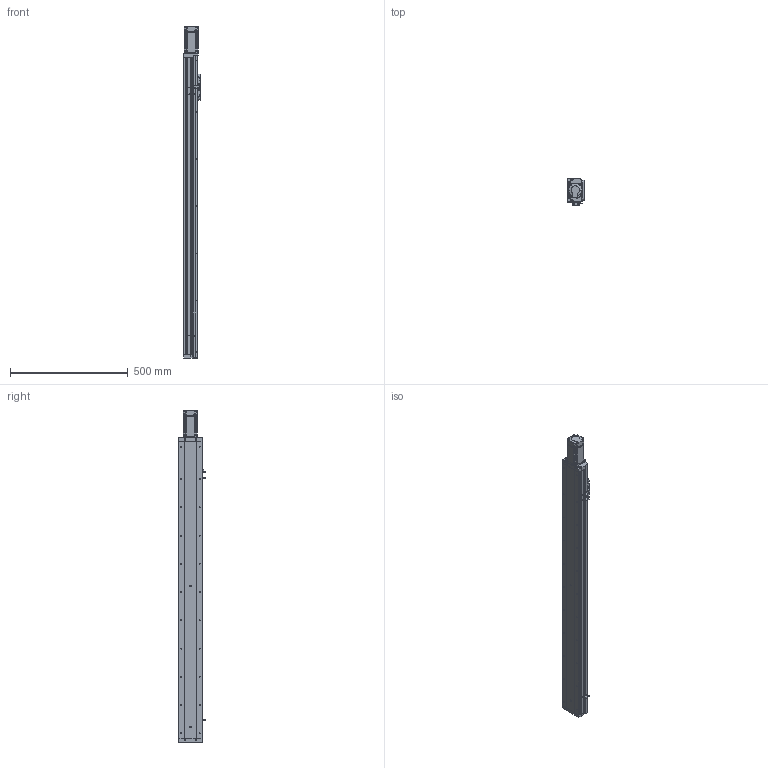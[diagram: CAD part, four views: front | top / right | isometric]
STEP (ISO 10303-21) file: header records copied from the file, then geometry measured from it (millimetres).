
FILE_DESCRIPTION (( 'STEP AP214' ), '1' );
FILE_NAME ('KSD100S-S1050-MN-CR.STEP', '2019-09-02T09:46:46', ( '微软用户' ), ( '微软中国' ), 'SwSTEP 2.0', 'SolidWorks 2014', '' );
FILE_SCHEMA (( 'AUTOMOTIVE_DESIGN' ));
Length unit declared in the file: millimetre
Products named in the file (12): MHMD042G1CA_2_03; U倰嫖萇EEㄜSX672; 感应片100宽全封闭; 100宽马达安装板全封闭不带电机座; 100宽端板全封闭; 100宽滚珠螺姆安装板1防护罩; 100宽滚珠螺姆安装板1; 100宽盖板压板不带电机座; 100宽盖板1050行程不带电机座; 100宽侧板1050行程不带电机座; 100宽底板全封闭1050行程不带电机座; KSD100S-S1050-MN-CR
Assembly tree (15 placements, depth 2):
  KSD100S-S1050-MN-CR
    100宽底板全封闭1050行程不带电机座
    100宽侧板1050行程不带电机座  x2
    100宽盖板1050行程不带电机座
    100宽盖板压板不带电机座  x2
    100宽滚珠螺姆安装板1
    100宽滚珠螺姆安装板1防护罩
    100宽端板全封闭
    100宽马达安装板全封闭不带电机座
    感应片100宽全封闭
    U倰嫖萇EEㄜSX672  x3
    MHMD042G1CA_2_03
Bounding box: 70 x 113.7 x 1410.5 mm (x, y, z)
Volume: 2479534.3 mm3; surface area: 1081812.4 mm2
Topology: 14 solids, 15 shells, 1644 faces, 4614 edges, 2918 vertices
Faces by surface type: cylinder 701, plane 660, cone 265, bspline 18
Entity records: 56362 total; most frequent: CARTESIAN_POINT 8887, DIRECTION 7723, ORIENTED_EDGE 7152, EDGE_CURVE 3648, AXIS2_PLACEMENT_3D 2770, VERTEX_POINT 2416, LINE 2183, VECTOR 2183
